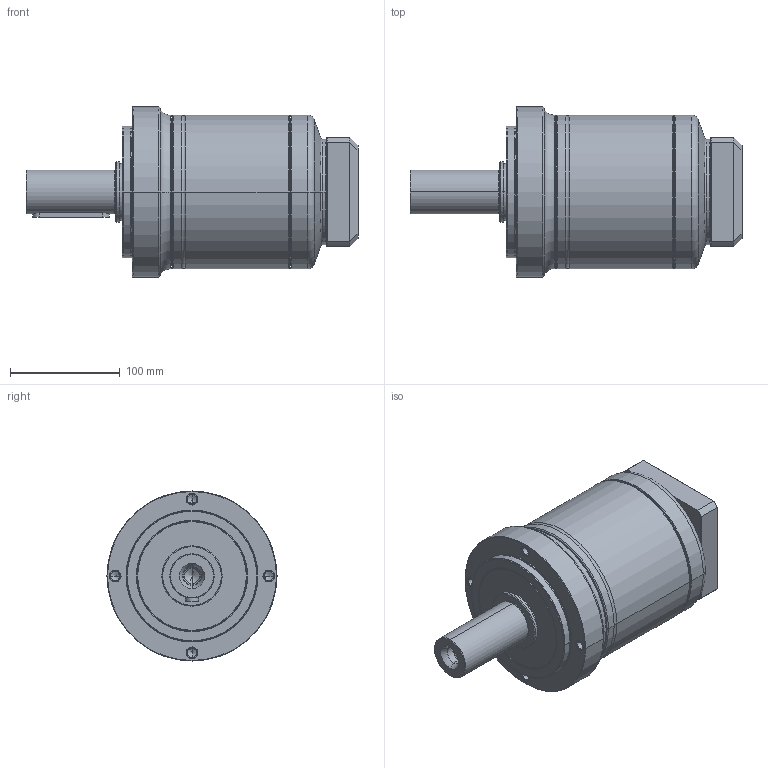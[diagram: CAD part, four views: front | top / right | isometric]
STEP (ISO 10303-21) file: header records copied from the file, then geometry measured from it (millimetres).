
FILE_DESCRIPTION((''),'2;1');
FILE_NAME('PE2-155_2ST_24-P0411500101_ASM','2016-05-03T',('d00435'),(''),'PRO/ENGINEER BY PARAMETRIC TECHNOLOGY CORPORATION, 2008410','PRO/ENGINEER BY PARAMETRIC TECHNOLOGY CORPORATION, 2008410','');
FILE_SCHEMA(('CONFIG_CONTROL_DESIGN'));
Length unit declared in the file: millimetre
Products named in the file (9): P1323510001; P0251500001; P1324500101; P0350501001; P0941501001; P0503500008; P0411500101; P1702500001; PE2-155_2ST_24-P0411500101_ASM
Assembly tree (8 placements, depth 2):
  PE2-155_2ST_24-P0411500101_ASM
    P1323510001
    P0251500001
    P1324500101
    P0350501001
    P0941501001
    P0503500008
    P0411500101
    P1702500001
Bounding box: 302.5 x 155 x 155 mm (x, y, z)
Volume: 2325518 mm3; surface area: 340881.4 mm2
Topology: 8 solids, 22 shells, 538 faces, 1199 edges, 706 vertices
Faces by surface type: cylinder 172, cone 148, torus 106, plane 96, bspline 16
Entity records: 19627 total; most frequent: CARTESIAN_POINT 7349, DIRECTION 2835, ORIENTED_EDGE 2270, AXIS2_PLACEMENT_3D 1226, EDGE_CURVE 1163, VERTEX_POINT 706, CIRCLE 677, EDGE_LOOP 619
